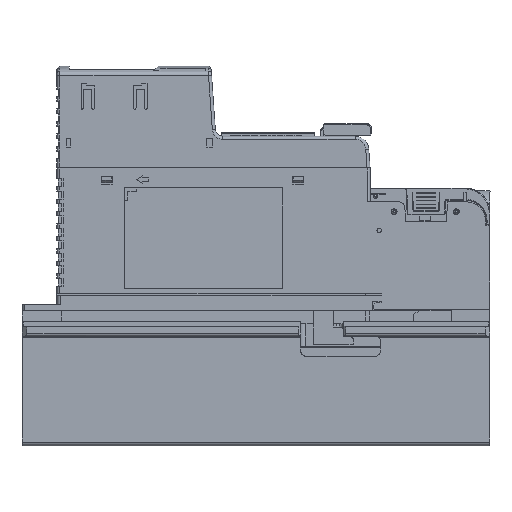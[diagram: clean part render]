
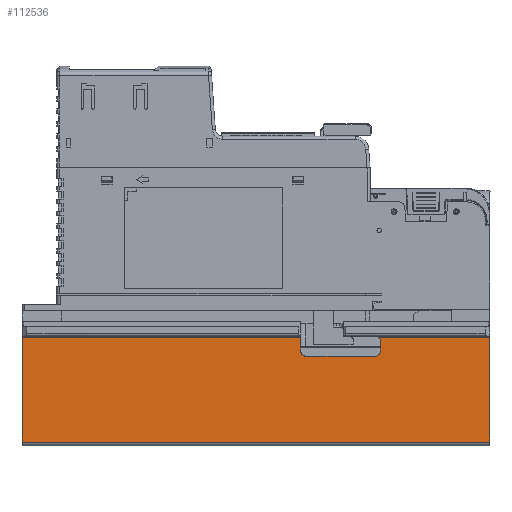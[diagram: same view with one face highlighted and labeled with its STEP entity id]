
A CAD part, left-side view. The second image highlights one B-rep face of the part: STEP entity #112536.
In plain terms, the highlighted planar face has unit normal (-1, 0, 0).
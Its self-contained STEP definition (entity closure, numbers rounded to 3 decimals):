
#777 = VERTEX_POINT ( 'NONE', #6541 ) ;
#860 = CIRCLE ( 'NONE', #204840, 2. ) ;
#3105 = VERTEX_POINT ( 'NONE', #147573 ) ;
#4258 = ORIENTED_EDGE ( 'NONE', *, *, #84460, .T. ) ;
#4368 = VECTOR ( 'NONE', #191264, 1000. ) ;
#4839 = DIRECTION ( 'NONE',  ( 0., 0., 1. ) ) ;
#6541 = CARTESIAN_POINT ( 'NONE',  ( -30., -20., -14. ) ) ;
#10340 = ORIENTED_EDGE ( 'NONE', *, *, #73402, .T. ) ;
#13003 = CARTESIAN_POINT ( 'NONE',  ( -30., 94., -48.5 ) ) ;
#18222 = DIRECTION ( 'NONE',  ( 0., 0., -1. ) ) ;
#23376 = CARTESIAN_POINT ( 'NONE',  ( -30., -50., -12. ) ) ;
#25856 = CARTESIAN_POINT ( 'NONE',  ( -30., -48., -14. ) ) ;
#27159 = ORIENTED_EDGE ( 'NONE', *, *, #192911, .F. ) ;
#30428 = DIRECTION ( 'NONE',  ( 0., 0., 1. ) ) ;
#32710 = CARTESIAN_POINT ( 'NONE',  ( -30., 94., -14. ) ) ;
#46163 = DIRECTION ( 'NONE',  ( 0., 1., 0. ) ) ;
#48547 = VERTEX_POINT ( 'NONE', #274896 ) ;
#54463 = CARTESIAN_POINT ( 'NONE',  ( -30., 94., -6.5 ) ) ;
#54957 = EDGE_CURVE ( 'NONE', #268111, #132528, #277417, .T. ) ;
#55473 = ORIENTED_EDGE ( 'NONE', *, *, #108522, .T. ) ;
#56610 = VECTOR ( 'NONE', #99026, 1000. ) ;
#63475 = CARTESIAN_POINT ( 'NONE',  ( -30., -18., -12. ) ) ;
#66019 = VECTOR ( 'NONE', #123720, 1000. ) ;
#67845 = CARTESIAN_POINT ( 'NONE',  ( -30., -94., -6. ) ) ;
#68370 = VERTEX_POINT ( 'NONE', #25856 ) ;
#68623 = DIRECTION ( 'NONE',  ( 0., 0., -1. ) ) ;
#73402 = EDGE_CURVE ( 'NONE', #204911, #132528, #141744, .T. ) ;
#77659 = VECTOR ( 'NONE', #112434, 1000. ) ;
#84460 = EDGE_CURVE ( 'NONE', #68370, #777, #176972, .T. ) ;
#89192 = LINE ( 'NONE', #164975, #255378 ) ;
#93793 = VECTOR ( 'NONE', #30428, 1000. ) ;
#93831 = ORIENTED_EDGE ( 'NONE', *, *, #54957, .F. ) ;
#96314 = ORIENTED_EDGE ( 'NONE', *, *, #248136, .T. ) ;
#99026 = DIRECTION ( 'NONE',  ( 0., 1., 0. ) ) ;
#101421 = DIRECTION ( 'NONE',  ( 0., 0., -1. ) ) ;
#107531 = EDGE_CURVE ( 'NONE', #148977, #204911, #89192, .T. ) ;
#108522 = EDGE_CURVE ( 'NONE', #165011, #228757, #170982, .T. ) ;
#112434 = DIRECTION ( 'NONE',  ( 0., 0., 1. ) ) ;
#112536 = ADVANCED_FACE ( 'NONE', ( #268341 ), #244979, .F. ) ;
#118588 = CARTESIAN_POINT ( 'NONE',  ( -30., 94., -6. ) ) ;
#123720 = DIRECTION ( 'NONE',  ( 0., 1., 0. ) ) ;
#131631 = DIRECTION ( 'NONE',  ( 1., 0., 0. ) ) ;
#132513 = CARTESIAN_POINT ( 'NONE',  ( -30., 94., -6.5 ) ) ;
#132528 = VERTEX_POINT ( 'NONE', #54463 ) ;
#140704 = EDGE_CURVE ( 'NONE', #228757, #48547, #150072, .T. ) ;
#141744 = LINE ( 'NONE', #132513, #186806 ) ;
#142107 = DIRECTION ( 'NONE',  ( 1., 0., 0. ) ) ;
#142578 = CARTESIAN_POINT ( 'NONE',  ( -30., -94., -6.5 ) ) ;
#143618 = DIRECTION ( 'NONE',  ( 0., 0., 1. ) ) ;
#147573 = CARTESIAN_POINT ( 'NONE',  ( -30., -94., -48.5 ) ) ;
#148977 = VERTEX_POINT ( 'NONE', #63475 ) ;
#150072 = CIRCLE ( 'NONE', #270544, 2. ) ;
#164975 = CARTESIAN_POINT ( 'NONE',  ( -30., -18., -6. ) ) ;
#165011 = VERTEX_POINT ( 'NONE', #142578 ) ;
#165146 = LINE ( 'NONE', #228531, #182327 ) ;
#170982 = LINE ( 'NONE', #251061, #56610 ) ;
#176972 = LINE ( 'NONE', #32710, #66019 ) ;
#180124 = EDGE_CURVE ( 'NONE', #222327, #68370, #860, .T. ) ;
#182327 = VECTOR ( 'NONE', #4839, 1000. ) ;
#186806 = VECTOR ( 'NONE', #46163, 1000. ) ;
#187053 = CIRCLE ( 'NONE', #198456, 2. ) ;
#188601 = CARTESIAN_POINT ( 'NONE',  ( -30., -20., -12. ) ) ;
#191264 = DIRECTION ( 'NONE',  ( 0., -1., 0. ) ) ;
#192006 = LINE ( 'NONE', #67845, #77659 ) ;
#192911 = EDGE_CURVE ( 'NONE', #222327, #48547, #165146, .T. ) ;
#198456 = AXIS2_PLACEMENT_3D ( 'NONE', #188601, #142107, #101421 ) ;
#204840 = AXIS2_PLACEMENT_3D ( 'NONE', #263248, #217794, #18222 ) ;
#204911 = VERTEX_POINT ( 'NONE', #249663 ) ;
#206455 = CARTESIAN_POINT ( 'NONE',  ( -30., -49.323, -6.5 ) ) ;
#207380 = ORIENTED_EDGE ( 'NONE', *, *, #218330, .T. ) ;
#208144 = DIRECTION ( 'NONE',  ( 1., 0., 0. ) ) ;
#210744 = ORIENTED_EDGE ( 'NONE', *, *, #256341, .T. ) ;
#217794 = DIRECTION ( 'NONE',  ( 1., 0., 0. ) ) ;
#218330 = EDGE_CURVE ( 'NONE', #268111, #3105, #264214, .T. ) ;
#222327 = VERTEX_POINT ( 'NONE', #23376 ) ;
#224336 = ORIENTED_EDGE ( 'NONE', *, *, #107531, .T. ) ;
#228531 = CARTESIAN_POINT ( 'NONE',  ( -30., -50., -14. ) ) ;
#228757 = VERTEX_POINT ( 'NONE', #206455 ) ;
#244979 = PLANE ( 'NONE',  #254066 ) ;
#245934 = CARTESIAN_POINT ( 'NONE',  ( -30., 94., -6. ) ) ;
#246221 = CARTESIAN_POINT ( 'NONE',  ( -30., 94., -48.5 ) ) ;
#248136 = EDGE_CURVE ( 'NONE', #777, #148977, #187053, .T. ) ;
#249663 = CARTESIAN_POINT ( 'NONE',  ( -30., -18., -6.5 ) ) ;
#249830 = CARTESIAN_POINT ( 'NONE',  ( -30., -48., -8. ) ) ;
#251061 = CARTESIAN_POINT ( 'NONE',  ( -30., -50., -6.5 ) ) ;
#254066 = AXIS2_PLACEMENT_3D ( 'NONE', #245934, #131631, #68623 ) ;
#255378 = VECTOR ( 'NONE', #143618, 1000. ) ;
#256341 = EDGE_CURVE ( 'NONE', #3105, #165011, #192006, .T. ) ;
#257907 = EDGE_LOOP ( 'NONE', ( #93831, #207380, #210744, #55473, #278394, #27159, #262133, #4258, #96314, #224336, #10340 ) ) ;
#262133 = ORIENTED_EDGE ( 'NONE', *, *, #180124, .T. ) ;
#263248 = CARTESIAN_POINT ( 'NONE',  ( -30., -48., -12. ) ) ;
#264214 = LINE ( 'NONE', #13003, #4368 ) ;
#268111 = VERTEX_POINT ( 'NONE', #246221 ) ;
#268341 = FACE_OUTER_BOUND ( 'NONE', #257907, .T. ) ;
#270544 = AXIS2_PLACEMENT_3D ( 'NONE', #249830, #208144, #273928 ) ;
#273928 = DIRECTION ( 'NONE',  ( 0., 0., -1. ) ) ;
#274896 = CARTESIAN_POINT ( 'NONE',  ( -30., -50., -8. ) ) ;
#277417 = LINE ( 'NONE', #118588, #93793 ) ;
#278394 = ORIENTED_EDGE ( 'NONE', *, *, #140704, .T. ) ;
